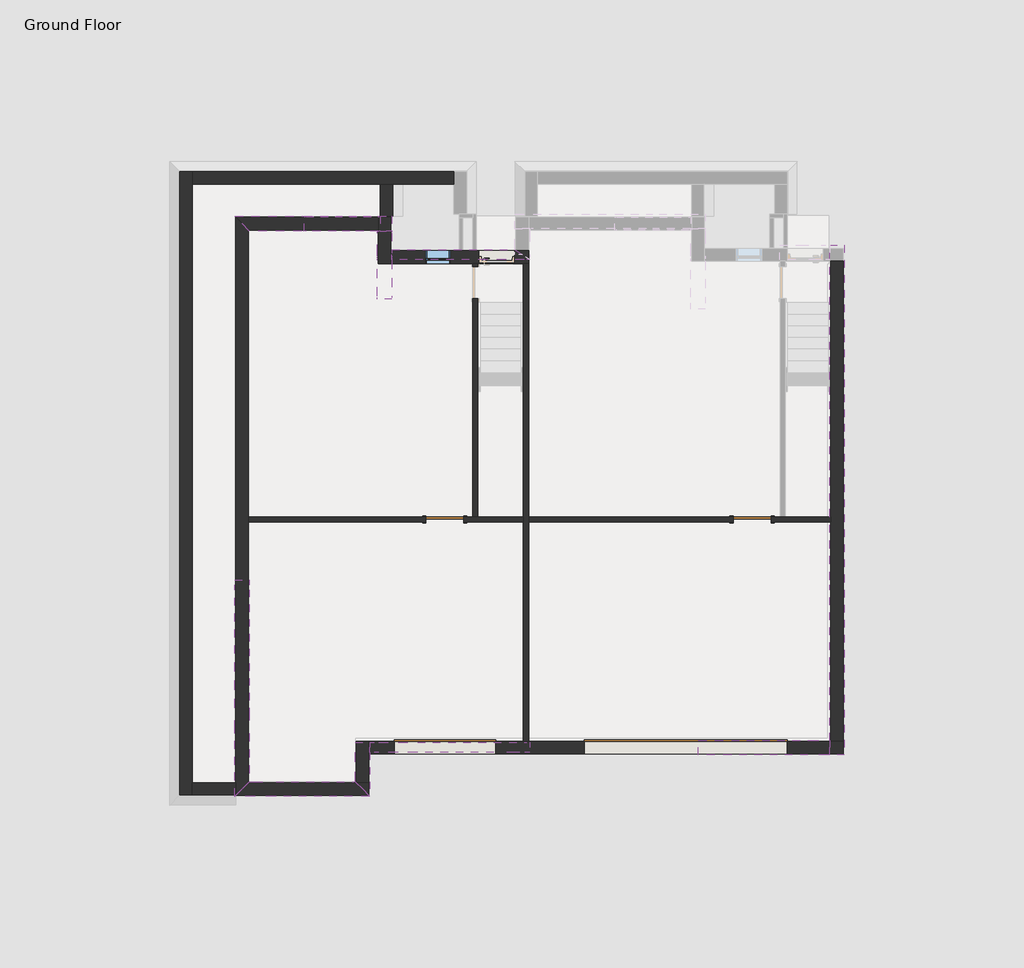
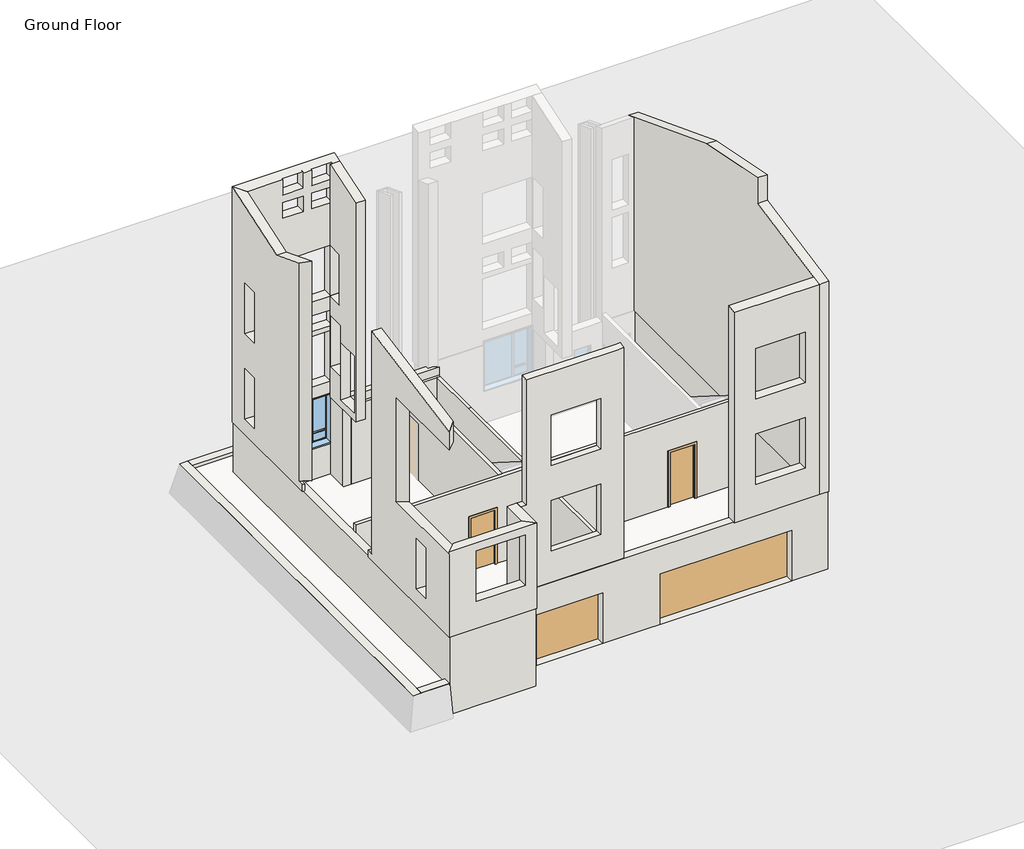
# One storey, part 1 of 2: 25 walls, 4 doors, 2 windows.
"""IFC4 building model written with IfcOpenShell, lengths in millimetres."""

import ifcopenshell
import ifcopenshell.guid

model = None  # the IFC model being written
_history = None  # IfcOwnerHistory: only IFC2X3 demands one
_inside = {}  # id of a spatial element -> (the spatial element, [elements in it])
_under = {}  # id of a project, library or spatial element -> (it, [spatial elements below it])
_declared = {}  # id of a project -> (the project, [libraries it declares])
_typed = {}  # id of a type object -> (the type object, [elements of that type])
_made_of = {}  # id of a material, layer set ... -> (it, [elements and type objects made of it])


def new_model(schema):
    """Start an empty IFC model of exactly this schema.

    Asked for "IFC4X3", IfcOpenShell would pick the latest addendum, in which some entities
    have other attributes; the version numbers below select the first issue.
    IFC2X3 requires an IfcOwnerHistory on every rooted entity: one is made here for all.
    """
    global model, _history
    if schema == "IFC4X3":
        model = ifcopenshell.file(schema_version=(4, 3, 0, 0))
    else:
        model = ifcopenshell.file(schema=schema)
    _inside.clear()
    _under.clear()
    _declared.clear()
    _typed.clear()
    _made_of.clear()
    _history = None
    if model.schema == "IFC2X3":
        org = make("IfcOrganization", Name="unknown")
        user = make(
            "IfcPersonAndOrganization",
            ThePerson=make("IfcPerson", FamilyName="unknown"),
            TheOrganization=org,
        )
        app = make(
            "IfcApplication",
            ApplicationDeveloper=org,
            Version="unknown",
            ApplicationFullName="unknown",
            ApplicationIdentifier="unknown",
        )
        _history = make(
            "IfcOwnerHistory",
            OwningUser=user,
            OwningApplication=app,
            ChangeAction="ADDED",
            CreationDate=0,
        )
    return model


def make(cls, **values):
    """One entity of the class cls with the attributes given. An attribute that is None is left unset."""
    return model.create_entity(
        cls, **{name: value for name, value in values.items() if value is not None}
    )


def rooted(cls, **values):
    """An entity with a GlobalId (a new one), such as an element, a storey or a relation."""
    return make(cls, GlobalId=ifcopenshell.guid.new(), OwnerHistory=_history, **values)


def si_unit(unit_type, name, prefix=None):
    """IfcSIUnit, for example si_unit("LENGTHUNIT", "METRE", prefix="MILLI")."""
    return make("IfcSIUnit", UnitType=unit_type, Prefix=prefix, Name=name)


def assignment(units):
    """IfcUnitAssignment: the units of a project."""
    return None if units is None else make("IfcUnitAssignment", Units=units)


def point(xyz):
    """IfcCartesianPoint."""
    return None if xyz is None else make("IfcCartesianPoint", Coordinates=xyz)


def direction(xyz):
    """IfcDirection."""
    return None if xyz is None else make("IfcDirection", DirectionRatios=xyz)


def frame(location, z_axis=None, x_axis=None):
    """IfcAxis2Placement3D, a coordinate frame: its origin and axes. An axis left out is left unset."""
    return make(
        "IfcAxis2Placement3D",
        Location=point(location),
        Axis=direction(z_axis),
        RefDirection=direction(x_axis),
    )


def origin():
    """The frame at (0, 0, 0) with its axes left unset."""
    return frame((0.0, 0.0, 0.0))


def origin_with_axes():
    """The frame at (0, 0, 0) with the z axis (0, 0, 1) and the x axis (1, 0, 0) written out."""
    return frame((0.0, 0.0, 0.0), z_axis=(0.0, 0.0, 1.0), x_axis=(1.0, 0.0, 0.0))


def place(relative_to, where):
    """IfcLocalPlacement: puts the frame where relative to a parent placement (None: the world)."""
    return make(
        "IfcLocalPlacement", PlacementRelTo=relative_to, RelativePlacement=where
    )


def context(
    kind, dimensions, precision=None, world=None, true_north=None, identifier=None
):
    """IfcGeometricRepresentationContext, for example the 3D "Model" context."""
    return make(
        "IfcGeometricRepresentationContext",
        ContextIdentifier=identifier,
        ContextType=kind,
        CoordinateSpaceDimension=dimensions,
        Precision=precision,
        WorldCoordinateSystem=world,
        TrueNorth=true_north,
    )


def project(units=None, contexts=None):
    """IfcProject with its units and contexts."""
    return rooted(
        "IfcProject",
        Name="project",
        RepresentationContexts=contexts,
        UnitsInContext=assignment(units),
    )


def spatial(cls, under=None, at=None, **own):
    """A site, building, storey or space (cls), placed at a placement, below another one or the project."""
    s = rooted(cls, ObjectPlacement=at, **own)
    if under is not None:
        _under.setdefault(under.id(), (under, []))[1].append(s)
    return s


def polyline(points):
    """IfcPolyline through the points."""
    return make("IfcPolyline", Points=[point(p) for p in points])


def outline(outer, holes=None, kind="AREA"):
    """IfcArbitraryClosedProfileDef: a profile drawn as a closed curve; with holes, ...WithVoids."""
    if holes is None:
        return make("IfcArbitraryClosedProfileDef", ProfileType=kind, OuterCurve=outer)
    return make(
        "IfcArbitraryProfileDefWithVoids",
        ProfileType=kind,
        OuterCurve=outer,
        InnerCurves=holes,
    )


def extrude(swept, where, along, depth):
    """IfcExtrudedAreaSolid: the profile swept, set in the frame where, extruded along a direction by depth."""
    return make(
        "IfcExtrudedAreaSolid",
        SweptArea=swept,
        Position=where,
        ExtrudedDirection=direction(along),
        Depth=depth,
    )


def faces_of(points, faces, orient=None, outer=None):
    """IfcFace entities. A face is a list of loops; a loop is a list of indices into points, from 0.

    orient and outer hold one flag for each loop. By default every Orientation is true, the
    first loop of a face is its IfcFaceOuterBound and the others are IfcFaceBound.
    """
    made = []
    for i, loops in enumerate(faces):
        bounds = []
        for j, loop in enumerate(loops):
            is_outer = j == 0 if outer is None else outer[i][j]
            bounds.append(
                make(
                    "IfcFaceOuterBound" if is_outer else "IfcFaceBound",
                    Bound=make("IfcPolyLoop", Polygon=[points[k] for k in loop]),
                    Orientation=True if orient is None else orient[i][j],
                )
            )
        made.append(make("IfcFace", Bounds=bounds))
    return made


def faceted_brep(points, faces, orient=None, outer=None, voids=None):
    """IfcFacetedBrep: a solid bounded by flat faces; with voids (closed shells), ...WithVoids."""
    shared = [point(p) for p in points]
    hull = make("IfcClosedShell", CfsFaces=faces_of(shared, faces, orient, outer))
    if voids is None:
        return make("IfcFacetedBrep", Outer=hull)
    return make(
        "IfcFacetedBrepWithVoids",
        Outer=hull,
        Voids=[
            make(cls, CfsFaces=faces_of(shared, fs, o, b)) for cls, fs, o, b in voids
        ],
    )


def shape(context_of_items, identifier, shape_type, items):
    """IfcShapeRepresentation: the items that make up one representation, for example the "Body"."""
    return make(
        "IfcShapeRepresentation",
        ContextOfItems=context_of_items,
        RepresentationIdentifier=identifier,
        RepresentationType=shape_type,
        Items=items,
    )


def source(mapping_origin, context_of_items, identifier, shape_type, items):
    """IfcRepresentationMap: a shape defined once, which mapped items show again and again."""
    return make(
        "IfcRepresentationMap",
        MappingOrigin=mapping_origin,
        MappedRepresentation=shape(context_of_items, identifier, shape_type, items),
    )


def transform(
    local_origin,
    x_axis=None,
    y_axis=None,
    z_axis=None,
    scale=None,
    scale2=None,
    scale3=None,
    uniform=True,
):
    """IfcCartesianTransformationOperator3D, or its non-uniform kind. x_axis, y_axis, z_axis: its Axis1, 2, 3."""
    if uniform:
        return make(
            "IfcCartesianTransformationOperator3D",
            Axis1=direction(x_axis),
            Axis2=direction(y_axis),
            LocalOrigin=point(local_origin),
            Scale=scale,
            Axis3=direction(z_axis),
        )
    return make(
        "IfcCartesianTransformationOperator3DnonUniform",
        Axis1=direction(x_axis),
        Axis2=direction(y_axis),
        LocalOrigin=point(local_origin),
        Scale=scale,
        Axis3=direction(z_axis),
        Scale2=scale2,
        Scale3=scale3,
    )


def mapped(mapping_source, mapping_target):
    """IfcMappedItem: shows the shape of a source again, moved by a transform."""
    return make(
        "IfcMappedItem", MappingSource=mapping_source, MappingTarget=mapping_target
    )


def made_of(thing, what):
    """Note that an element or type object is made of a material, layer set ...; save() writes the relation."""
    if what is not None:
        _made_of.setdefault(what.id(), (what, []))[1].append(thing)
    return thing


def element(
    cls,
    number,
    at=None,
    inside=None,
    cuts=None,
    type_object=None,
    material=None,
    context=None,
    identifier="Body",
    shape_type=None,
    held_by="IfcProductDefinitionShape",
    body=None,
    shapes=None,
    **own,
):
    """One element of the class cls, such as IfcWall. Its Tag is "e" and its number.

    at: its placement. inside: the storey or other place that contains it. cuts: it is an
    opening in that element (IfcRelVoidsElement). A single representation is given by context,
    identifier, shape_type and body (its items); several are given by shapes. held_by: the class
    of the entity that holds the representations. save() writes the other relations.
    """
    e = rooted(cls, Tag="e%d" % number, ObjectPlacement=at, **own)
    if body is not None:
        shapes = [shape(context, identifier, shape_type, body)]
    if shapes is not None:
        e.Representation = make(held_by, Representations=shapes)
    if inside is not None:
        _inside.setdefault(inside.id(), (inside, []))[1].append(e)
    if cuts is not None:
        rooted(
            "IfcRelVoidsElement", RelatingBuildingElement=cuts, RelatedOpeningElement=e
        )
    if type_object is not None:
        _typed.setdefault(type_object.id(), (type_object, []))[1].append(e)
    return made_of(e, material)


def aggregate(whole, parts):
    """IfcRelAggregates: a whole, such as a stair, and the parts it consists of."""
    return rooted("IfcRelAggregates", RelatingObject=whole, RelatedObjects=parts)


def save(model, path):
    """Write the relations noted so far, then the file.

    IfcRelAggregates (storeys below a building ...), IfcRelContainedInSpatialStructure (elements
    in a storey), IfcRelDefinesByType, IfcRelAssociatesMaterial and IfcRelDeclares: one each for
    every whole, place, type object, material and project.
    """
    for whole, parts in _under.values():
        aggregate(whole, parts)
    for where, things in _inside.values():
        rooted(
            "IfcRelContainedInSpatialStructure",
            RelatedElements=things,
            RelatingStructure=where,
        )
    for kind, things in _typed.values():
        rooted("IfcRelDefinesByType", RelatedObjects=things, RelatingType=kind)
    for what, things in _made_of.values():
        rooted("IfcRelAssociatesMaterial", RelatedObjects=things, RelatingMaterial=what)
    for by, libraries in _declared.values():
        rooted("IfcRelDeclares", RelatingContext=by, RelatedDefinitions=libraries)
    model.write(path)


def door_03d53f81(model_context):
    return source(origin(), model_context, "Body", "SweptSolid", [
        extrude(outline(polyline([(2438.4, 152.4), (-2438.4, 152.4), (-2438.4, 190.5), (2438.4, 190.5), (2438.4, 152.4)])), origin_with_axes(), (0.0, 0.0, 1.0), 1981.2),
    ])


def door_8bec8b28(model_context):
    return source(origin(), model_context, "Body", "SweptSolid", [
        extrude(outline(polyline([(1219.2, -152.4), (1219.2, -190.5), (-1219.2, -190.5), (-1219.2, -152.4), (1219.2, -152.4)])), origin_with_axes(), (0.0, 0.0, 1.0), 1981.2),
    ])


def door_88503111(model_context):
    return source(origin(), model_context, "Body", "SweptSolid", [
        extrude(outline(polyline([(2209.8, -533.4), (0.0, -533.4), (0.0, -457.2), (2133.6, -457.2), (2133.6, 457.2), (0.0, 457.2), (0.0, 533.4), (2209.8, 533.4), (2209.8, -533.4)])), frame((0.0, 61.9125, 0.0), z_axis=(0.0, 1.0, 0.0), x_axis=(0.0, 0.0, 1.0)), (0.0, 0.0, 1.0), 25.4),
        extrude(outline(polyline([(2209.8, 533.4), (2209.8, -533.4), (0.0, -533.4), (0.0, -457.2), (2133.6, -457.2), (2133.6, 457.2), (0.0, 457.2), (0.0, 533.4), (2209.8, 533.4)])), frame((0.0, -87.3125, 0.0), z_axis=(0.0, 1.0, 0.0), x_axis=(0.0, 0.0, 1.0)), (0.0, 0.0, 1.0), 25.4),
        extrude(outline(polyline([(457.2, 11.1125), (-457.2, 11.1125), (-457.2, 61.9125), (457.2, 61.9125), (457.2, 11.1125)])), origin_with_axes(), (0.0, 0.0, 1.0), 2133.6),
    ])


def window_ca6665d5(model_context):
    return source(origin(), model_context, "Body", "SweptSolid", [
        extrude(outline(polyline([(203.2, 47.625), (-279.4, 47.625), (-279.4, 60.325), (203.2, 60.325), (203.2, 47.625)])), frame((0.0, 0.0, 368.3), z_axis=(0.0, 0.0, 1.0), x_axis=(1.0, 0.0, 0.0)), (0.0, 0.0, 1.0), 1854.2),
        extrude(outline(polyline([(2266.95, -323.85), (323.85, -323.85), (323.85, 247.65), (2266.95, 247.65), (2266.95, -323.85)]), holes=[polyline([(2222.5, -279.4), (2222.5, 203.2), (368.3, 203.2), (368.3, -279.4), (2222.5, -279.4)])]), frame((0.0, 31.75, 0.0), z_axis=(0.0, 1.0, 0.0), x_axis=(0.0, 0.0, 1.0)), (0.0, 0.0, 1.0), 44.45),
        extrude(outline(polyline([(2286.0, -342.9), (304.8, -342.9), (304.8, 266.7), (2286.0, 266.7), (2286.0, -342.9)]), holes=[polyline([(2254.25, -311.15), (2254.25, 234.95), (336.55, 234.95), (336.55, -311.15), (2254.25, -311.15)])]), frame((0.0, -152.4, 0.0), z_axis=(0.0, 1.0, 0.0), x_axis=(0.0, 0.0, 1.0)), (0.0, 0.0, 1.0), 184.15),
        extrude(outline(polyline([(2286.0, 266.7), (2286.0, -342.9), (304.8, -342.9), (304.8, 266.7), (2286.0, 266.7)]), holes=[polyline([(2266.95, 247.65), (323.85, 247.65), (323.85, -323.85), (2266.95, -323.85), (2266.95, 247.65)])]), frame((0.0, 31.75, 0.0), z_axis=(0.0, 1.0, 0.0), x_axis=(0.0, 0.0, 1.0)), (0.0, 0.0, 1.0), 120.65),
    ])


def window_7b40078c(model_context):
    return source(origin(), model_context, "Body", "SolidModel", [
        faceted_brep([(-863.6, 134.9375, 2844.8), (-863.6, 176.2125, 2844.8), (863.6, 176.2125, 2844.8), (863.6, 134.9375, 2844.8), (340.3203125, 134.9375, 2844.8), (330.2, 134.9375, 2844.8), (330.2, 173.0375, 2844.8), (279.4, 173.0375, 2844.8), (279.4, 134.9375, 2844.8), (-878.8796875, 84.1375, 2860.0796875), (-878.8796875, 134.9375, 2860.0796875), (878.8796875, 134.9375, 2860.0796875), (878.8796875, 84.1375, 2860.0796875), (-863.6, -176.2125, 2844.8), (-863.6, 84.1375, 2844.8), (279.4, 84.1375, 2844.8), (340.3203125, 84.1375, 2844.8), (863.6, 84.1375, 2844.8), (863.6, -176.2125, 2844.8), (-914.4, 176.2125, 2895.6), (-914.4, -176.2125, 2895.6), (914.4, -176.2125, 2895.6), (914.4, 176.2125, 2895.6), (863.6, 176.2125, 965.2), (863.6, 134.9375, 965.2), (863.6, 134.9375, 1292.8798438), (863.6, 173.0375, 1292.8798438), (863.6, 173.0375, 1328.4001563), (863.6, 134.9375, 1328.4001563), (878.8796875, 134.9375, 1328.4001563), (878.8796875, 84.1375, 1328.4001563), (878.8796875, 134.9375, 949.9203125), (878.8796875, 84.1375, 949.9203125), (878.8796875, 84.1375, 1292.8798438), (878.8796875, 134.9375, 1292.8798438), (863.6, 84.1375, 1328.4001563), (863.6, 84.1375, 1292.8798438), (863.6, 84.1375, 965.2), (863.6, -176.2125, 965.2), (914.4, -176.2125, 914.4), (914.4, 176.2125, 914.4), (-863.6, 176.2125, 965.2), (-863.6, 134.9375, 965.2), (279.4, 134.9375, 965.2), (279.4, 173.0375, 965.2), (330.2, 173.0375, 965.2), (330.2, 134.9375, 965.2), (340.3203125, 134.9375, 965.2), (340.3203125, 134.9375, 949.9203125), (340.3203125, 84.1375, 949.9203125), (-878.8796875, 134.9375, 949.9203125), (-878.8796875, 84.1375, 949.9203125), (279.4, 84.1375, 949.9203125), (279.4, 134.9375, 949.9203125), (340.3203125, 84.1375, 965.2), (279.4, 84.1375, 965.2), (-863.6, 84.1375, 965.2), (-863.6, -176.2125, 965.2), (-914.4, -176.2125, 914.4), (-914.4, 176.2125, 914.4), (330.2, 134.9375, 2844.8), (330.2, 173.0375, 1328.4001563), (330.2, 173.0375, 1292.8798438), (340.3203125, 134.9375, 1292.8798438), (340.3203125, 84.1375, 1292.8798438), (340.3203125, 84.1375, 1328.4001563), (340.3203125, 134.9375, 1328.4001563), (330.2, 134.9375, 1328.4001563), (330.2, 134.9375, 1292.8798438)], [[[0, 1, 2, 3, 4, 5, 6, 7, 8]], [[9, 10, 11, 12]], [[13, 14, 15, 16, 17, 18]], [[19, 20, 21, 22]], [[3, 2, 23, 24, 25, 26, 27, 28]], [[12, 11, 29, 30]], [[31, 32, 33, 34]], [[18, 17, 35, 36, 37, 38]], [[22, 21, 39, 40]], [[24, 23, 41, 42, 43, 44, 45, 46, 47]], [[32, 31, 48, 49]], [[50, 51, 52, 53]], [[38, 37, 54, 55, 56, 57]], [[40, 39, 58, 59]], [[1, 0, 42, 41]], [[48, 31, 34, 25, 24, 47]], [[11, 10, 50, 53, 43, 42, 0, 8, 60, 4, 3, 28, 29]], [[10, 9, 51, 50]], [[9, 12, 30, 35, 17, 16, 15, 14, 56, 55, 52, 51]], [[54, 37, 36, 33, 32, 49]], [[14, 13, 57, 56]], [[21, 20, 58, 39], [13, 18, 38, 57]], [[20, 19, 59, 58]], [[19, 22, 40, 59], [2, 1, 41, 23]], [[44, 7, 6, 61, 27, 26, 62, 45]], [[55, 15, 8, 7, 44, 43, 53, 52]], [[49, 48, 47, 63, 64, 54]], [[4, 16, 65, 66]], [[6, 5, 67, 61]], [[46, 45, 62, 68]], [[36, 64, 63, 68, 62, 26, 25, 34, 33]], [[65, 35, 30, 29, 28, 27, 61, 67, 66]], [[16, 4, 60, 8, 15]], [[15, 55, 54, 64, 36, 35, 65, 16]], [[5, 4, 66, 67]], [[47, 46, 68, 63]]]),
        extrude(outline(polyline([(889.0, 147.6375), (889.0, 141.2875), (330.2, 141.2875), (330.2, 147.6375), (889.0, 147.6375)])), frame((0.0, 0.0, 1328.4001563), z_axis=(0.0, 0.0, 1.0), x_axis=(1.0, 0.0, 0.0)), (0.0, 0.0, 1.0), 1541.7998438),
        extrude(outline(polyline([(889.0, 160.3375), (889.0, 153.9875), (330.2, 153.9875), (330.2, 160.3375), (889.0, 160.3375)])), frame((0.0, 0.0, 1328.4001563), z_axis=(0.0, 0.0, 1.0), x_axis=(1.0, 0.0, 0.0)), (0.0, 0.0, 1.0), 1541.7998438),
        extrude(outline(polyline([(279.4, 160.3375), (279.4, 153.9875), (-863.6, 153.9875), (-863.6, 160.3375), (279.4, 160.3375)])), frame((0.0, 0.0, 949.9203125), z_axis=(0.0, 0.0, 1.0), x_axis=(1.0, 0.0, 0.0)), (0.0, 0.0, 1.0), 1920.2796875),
        extrude(outline(polyline([(279.4, 147.6375), (279.4, 141.2875), (-863.6, 141.2875), (-863.6, 147.6375), (279.4, 147.6375)])), frame((0.0, 0.0, 949.9203125), z_axis=(0.0, 0.0, 1.0), x_axis=(1.0, 0.0, 0.0)), (0.0, 0.0, 1.0), 1920.2796875),
        extrude(outline(polyline([(889.0, 160.3375), (330.2, 160.3375), (330.2, 173.0375), (889.0, 173.0375), (889.0, 160.3375)])), frame((0.0, 0.0, 949.9203125), z_axis=(0.0, 0.0, 1.0), x_axis=(1.0, 0.0, 0.0)), (0.0, 0.0, 1.0), 342.9595312),
        extrude(outline(polyline([(889.0, 147.6375), (889.0, 141.2875), (330.2, 141.2875), (330.2, 147.6375), (889.0, 147.6375)])), frame((0.0, 0.0, 949.9203125), z_axis=(0.0, 0.0, 1.0), x_axis=(1.0, 0.0, 0.0)), (0.0, 0.0, 1.0), 342.9595312),
    ])


model = new_model("IFC4")

# Units and contexts
model_context = context("Model", 3, world=origin())
ifc_project = project(units=[si_unit("LENGTHUNIT", "METRE", prefix="MILLI")], contexts=[model_context])

# Site, building, storey
site = spatial("IfcSite", under=ifc_project)
building = spatial("IfcBuilding", under=site)
storey = spatial("IfcBuildingStorey", under=building, Name="Ground Floor", Elevation=-3352.8)

# Doors
placement = place(None, origin())
door_shape = door_03d53f81(model_context)
element("IfcDoor", 1, ObjectType="Door-Overhead-Sectional : 16' x 6'-6\"", at=placement, inside=storey, context=model_context, shape_type="MappedRepresentation", body=[
    mapped(door_shape, transform((2182.7178219, -6034.5046456, -3352.8), x_axis=(1.0, 0.0, 0.0), y_axis=(0.0, 1.0, 0.0), z_axis=(0.0, 0.0, 1.0))),
])
door_2_shape = door_8bec8b28(model_context)
element("IfcDoor", 2, ObjectType="Door-Overhead-Sectional : 8' x 6'-6\"", at=placement, inside=storey, context=model_context, shape_type="MappedRepresentation", body=[
    mapped(door_2_shape, transform((-3608.4821781, -6034.5046456, -3352.8), x_axis=(-1.0, 0.0, 0.0), y_axis=(0.0, -1.0, 0.0), z_axis=(0.0, 0.0, 1.0))),
])
door_3_shape = door_88503111(model_context)
element("IfcDoor", 3, ObjectType="Single-Flush : 36\" x 84\"", at=placement, inside=storey, context=model_context, shape_type="MappedRepresentation", body=[
    mapped(door_3_shape, transform((-3614.4696781, -546.2436915, -3352.8), x_axis=(1.0, 0.0, 0.0), y_axis=(0.0, 1.0, 0.0), z_axis=(0.0, 0.0, 1.0))),
])
element("IfcDoor", 4, ObjectType="Single-Flush : 36\" x 84\"", at=placement, inside=storey, context=model_context, shape_type="MappedRepresentation", body=[
    mapped(door_3_shape, transform((3776.1161072, -551.0718139, -3352.8), x_axis=(1.0, 0.0, 0.0), y_axis=(0.0, 1.0, 0.0), z_axis=(0.0, 0.0, 1.0))),
])

# Walls
element("IfcWall", 5, ObjectType="Exterior - Brick", at=placement, inside=storey, context=model_context, shape_type="Brep", body=[
    faceted_brep([(-5413.4696781, -7206.5436915, -304.8), (-5413.4696781, -6155.1546456, -304.8), (-5413.4696781, -5913.8546456, -304.8), (-5413.4696781, -5913.8546456, 3048.0), (-5413.4696781, -6155.1546456, 3048.0), (-5413.4696781, -7206.5436915, 3048.0), (-5765.8946781, -6854.1186915, -304.8), (-5765.8946781, -6854.1186915, 3048.0), (-5765.8946781, -5913.8546456, 3048.0), (-5765.8946781, -5913.8546456, -304.8)], [[[0, 1, 2, 3, 4, 5]], [[6, 7, 8, 9]], [[2, 1, 0, 6, 9]], [[3, 2, 9, 8]], [[0, 5, 7, 6]], [[5, 4, 3, 8, 7]]]),
])
element("IfcWall", 6, ObjectType="Exterior - Brick on Mtl. Stud", at=placement, inside=storey, context=model_context, shape_type="Brep", body=[
    faceted_brep([(-8312.2446781, 6389.4938085, 8822.2842549), (-8312.2446781, 6389.4938085, 0.0), (-8312.2446781, 6389.4938085, -304.8), (-6989.0821781, 6389.4938085, -304.8), (-6989.0821781, 6389.4938085, -152.4), (-5160.2821781, 6389.4938085, -152.4), (-5160.2821781, 6389.4938085, -304.8), (-4883.0196781, 6389.4938085, -304.8), (-4883.0196781, 6389.4938085, 3657.6), (-5235.4446781, 6389.4938085, 3657.6), (-7048.4446781, 6389.4938085, 3657.6), (-7048.4446781, 6389.4938085, 5638.8), (-5235.4446781, 6389.4938085, 5638.8), (-4883.0196781, 6389.4938085, 5638.8), (-4883.0196781, 6389.4938085, 8822.2842549), (-5160.2821781, 6389.4938085, 8822.2842549), (-5160.2821781, 6389.4938085, 8229.6), (-5922.2821781, 6389.4938085, 8229.6), (-5922.2821781, 6389.4938085, 8822.2842549), (-6227.0821781, 6389.4938085, 8822.2842549), (-6227.0821781, 6389.4938085, 8229.6), (-6989.0821781, 6389.4938085, 8229.6), (-6989.0821781, 6389.4938085, 8822.2842549), (-5160.2821781, 6389.4938085, 3098.8), (-5160.2821781, 6389.4938085, 2489.2), (-5922.2821781, 6389.4938085, 2489.2), (-5922.2821781, 6389.4938085, 3098.8), (-5160.2821781, 6389.4938085, 7924.8), (-5160.2821781, 6389.4938085, 7315.2), (-5922.2821781, 6389.4938085, 7315.2), (-5922.2821781, 6389.4938085, 7924.8), (-6989.0821781, 6389.4938085, 2489.2), (-6989.0821781, 6389.4938085, 3098.8), (-6227.0821781, 6389.4938085, 3098.8), (-6227.0821781, 6389.4938085, 2489.2), (-6227.0821781, 6389.4938085, 7924.8), (-6227.0821781, 6389.4938085, 7315.2), (-6989.0821781, 6389.4938085, 7315.2), (-6989.0821781, 6389.4938085, 7924.8), (-5219.6446781, 6389.4938085, 2286.0), (-5219.6446781, 6389.4938085, 304.8), (-7048.4446781, 6389.4938085, 304.8), (-7048.4446781, 6389.4938085, 2286.0), (-8664.6696781, 6741.9188085, 8938.1680475), (-4883.0196781, 6741.9188085, 8938.1680475), (-4883.0196781, 6741.9188085, -304.8), (-5160.2821781, 6741.9188085, -304.8), (-5160.2821781, 6741.9188085, -152.4), (-6989.0821781, 6741.9188085, -152.4), (-6989.0821781, 6741.9188085, -304.8), (-8664.6696781, 6741.9188085, -304.8), (-5160.2821781, 6741.9188085, 8229.6), (-5160.2821781, 6741.9188085, 8839.2), (-5922.2821781, 6741.9188085, 8839.2), (-5922.2821781, 6741.9188085, 8229.6), (-6227.0821781, 6741.9188085, 8229.6), (-6227.0821781, 6741.9188085, 8839.2), (-6989.0821781, 6741.9188085, 8839.2), (-6989.0821781, 6741.9188085, 8229.6), (-5219.6446781, 6741.9188085, 3657.6), (-5219.6446781, 6741.9188085, 5638.8), (-7048.4446781, 6741.9188085, 5638.8), (-7048.4446781, 6741.9188085, 3657.6), (-5160.2821781, 6741.9188085, 2489.2), (-5160.2821781, 6741.9188085, 3098.8), (-5922.2821781, 6741.9188085, 3098.8), (-5922.2821781, 6741.9188085, 2489.2), (-5160.2821781, 6741.9188085, 7315.2), (-5160.2821781, 6741.9188085, 7924.8), (-5922.2821781, 6741.9188085, 7924.8), (-5922.2821781, 6741.9188085, 7315.2), (-6989.0821781, 6741.9188085, 3098.8), (-6989.0821781, 6741.9188085, 2489.2), (-6227.0821781, 6741.9188085, 2489.2), (-6227.0821781, 6741.9188085, 3098.8), (-6227.0821781, 6741.9188085, 7315.2), (-6227.0821781, 6741.9188085, 7924.8), (-6989.0821781, 6741.9188085, 7924.8), (-6989.0821781, 6741.9188085, 7315.2), (-5219.6446781, 6741.9188085, 304.8), (-5219.6446781, 6741.9188085, 2286.0), (-7048.4446781, 6741.9188085, 2286.0), (-7048.4446781, 6741.9188085, 304.8), (-6989.0821781, 6440.9378573, 8839.2), (-6227.0821781, 6440.9378573, 8839.2), (-5922.2821781, 6440.9378573, 8839.2), (-5160.2821781, 6440.9378573, 8839.2), (-4883.0196781, 6394.6313085, 5638.8), (-4883.0196781, 6394.6313085, 3657.6), (-5219.6446781, 6394.6313085, 3657.6), (-5219.6446781, 6394.6313085, 5638.8)], [[[0, 1, 2, 3, 4, 5, 6, 7, 8, 9, 10, 11, 12, 13, 14, 15, 16, 17, 18, 19, 20, 21, 22], [23, 24, 25, 26], [27, 28, 29, 30], [31, 32, 33, 34], [35, 36, 37, 38], [39, 40, 41, 42]], [[43, 44, 45, 46, 47, 48, 49, 50], [51, 52, 53, 54], [55, 56, 57, 58], [59, 60, 61, 62], [63, 64, 65, 66], [67, 68, 69, 70], [71, 72, 73, 74], [75, 76, 77, 78], [79, 80, 81, 82]], [[45, 7, 6, 46]], [[2, 50, 49, 3]], [[44, 43, 0, 22, 83, 84, 19, 18, 85, 86, 15, 14]], [[7, 45, 44, 14, 13, 87, 88, 8]], [[2, 1, 0, 43, 50]], [[5, 47, 46, 6]], [[48, 4, 3, 49]], [[47, 5, 4, 48]], [[86, 52, 51, 16, 15]], [[16, 51, 54, 17]], [[17, 54, 53, 85, 18]], [[52, 86, 85, 53]], [[84, 56, 55, 20, 19]], [[20, 55, 58, 21]], [[21, 58, 57, 83, 22]], [[56, 84, 83, 57]], [[60, 59, 89, 90]], [[62, 10, 9, 8, 88, 89, 59]], [[10, 62, 61, 11]], [[11, 61, 60, 90, 87, 13, 12]], [[87, 90, 89, 88]], [[23, 64, 63, 24]], [[24, 63, 66, 25]], [[25, 66, 65, 26]], [[64, 23, 26, 65]], [[27, 68, 67, 28]], [[28, 67, 70, 29]], [[29, 70, 69, 30]], [[68, 27, 30, 69]], [[72, 71, 32, 31]], [[73, 72, 31, 34]], [[74, 73, 34, 33]], [[71, 74, 33, 32]], [[36, 35, 76, 75]], [[37, 36, 75, 78]], [[38, 37, 78, 77]], [[35, 38, 77, 76]], [[39, 80, 79, 40]], [[40, 79, 82, 41]], [[41, 82, 81, 42]], [[80, 39, 42, 81]]]),
])
element("IfcWall", 7, ObjectType="Exterior - Brick on Mtl. Stud", at=placement, inside=storey, context=model_context, shape_type="Brep", body=[
    faceted_brep([(-8312.2446781, -2238.8436915, 8711.0519224), (-8312.2446781, -6854.1186915, 7827.4619555), (-8312.2446781, -6854.1186915, 7052.8), (-8312.2446781, -4012.0811915, 7052.8), (-8312.2446781, -4012.0811915, 2952.8), (-8312.2446781, -6854.1186915, 2952.8), (-8312.2446781, -6854.1186915, 0.0), (-8312.2446781, -6854.1186915, -304.8), (-8312.2446781, -1997.5436915, -304.8), (-8312.2446781, -1997.5436915, -28.575), (-8312.2446781, -2238.8436915, -28.575), (-8312.2446781, -2238.8436915, 0.0), (-8312.2446781, -5688.3425794, 304.8), (-8312.2446781, -5688.3425794, 2286.0), (-8312.2446781, -5078.7425794, 2286.0), (-8312.2446781, -5078.7425794, 304.8), (-8664.6696781, -7206.5436915, 7759.9905277), (-8664.6696781, -2238.8436915, 8711.0519224), (-8664.6696781, -2238.8436915, -28.575), (-8664.6696781, -1997.5436915, -28.575), (-8664.6696781, -1997.5436915, -304.8), (-8664.6696781, -7206.5436915, -304.8), (-8664.6696781, -7206.5436915, 2952.8), (-8664.6696781, -3770.7811915, 2952.8), (-8664.6696781, -3770.7811915, 7052.8), (-8664.6696781, -7206.5436915, 7052.8), (-8664.6696781, -5688.3425794, 2286.0), (-8664.6696781, -5688.3425794, 304.8), (-8664.6696781, -5078.7425794, 304.8), (-8664.6696781, -5078.7425794, 2286.0)], [[[0, 1, 2, 3, 4, 5, 6, 7, 8, 9, 10, 11], [12, 13, 14, 15]], [[16, 17, 18, 19, 20, 21, 22, 23, 24, 25], [26, 27, 28, 29]], [[7, 21, 20, 8]], [[17, 16, 1, 0]], [[23, 22, 5, 4]], [[25, 24, 3, 2]], [[18, 10, 9, 19]], [[18, 17, 0, 11, 10]], [[24, 23, 4, 3]], [[22, 21, 7, 6, 5]], [[16, 25, 2, 1]], [[27, 26, 13, 12]], [[28, 27, 12, 15]], [[29, 28, 15, 14]], [[26, 29, 14, 13]], [[9, 8, 20, 19]]]),
    faceted_brep([(-8312.2446781, 6389.4938085, 8821.6527681), (-8312.2446781, 3870.984475, 7984.4952914), (-8312.2446781, 2230.7574206, 8615.9369278), (-8312.2446781, 2230.7574206, 0.0), (-8312.2446781, 6389.4938085, 0.0), (-8312.2446781, 5921.5563085, 2286.0), (-8312.2446781, 5921.5563085, 304.8), (-8312.2446781, 5311.9563085, 304.8), (-8312.2446781, 5311.9563085, 2286.0), (-8312.2446781, 5921.5563085, 5638.8), (-8312.2446781, 5921.5563085, 3657.6), (-8312.2446781, 5311.9563085, 3657.6), (-8312.2446781, 5311.9563085, 5638.8), (-8664.6696781, 2472.0574206, -28.575), (-8664.6696781, 2472.0574206, 8523.0431626), (-8664.6696781, 3870.984475, 7984.4952914), (-8664.6696781, 6741.9188085, 8938.7995342), (-8664.6696781, 6741.9188085, -304.8), (-8664.6696781, 2230.7574206, -304.8), (-8664.6696781, 2230.7574206, -28.575), (-8664.6696781, 5921.5563085, 304.8), (-8664.6696781, 5921.5563085, 2286.0), (-8664.6696781, 5311.9563085, 2286.0), (-8664.6696781, 5311.9563085, 304.8), (-8664.6696781, 5921.5563085, 3657.6), (-8664.6696781, 5921.5563085, 5638.8), (-8664.6696781, 5311.9563085, 5638.8), (-8664.6696781, 5311.9563085, 3657.6), (-8312.2446781, 6389.4938085, -304.8), (-8566.5821781, 6389.4938085, -304.8), (-8566.5821781, 2230.7574206, -304.8), (-8566.5821781, 2230.7574206, -28.575), (-8566.5821781, 2404.8984116, -28.575), (-8566.5821781, 2404.8984116, 0.0), (-8566.5821781, 6389.4938085, 0.0)], [[[0, 1, 2, 3, 4], [5, 6, 7, 8], [9, 10, 11, 12]], [[13, 14, 15, 16, 17, 18, 19], [20, 21, 22, 23], [24, 25, 26, 27]], [[17, 28, 29, 30, 18]], [[13, 19, 31, 32]], [[14, 13, 32, 33, 3, 2]], [[16, 15, 1, 0]], [[15, 14, 2, 1]], [[17, 16, 0, 4, 28]], [[5, 21, 20, 6]], [[6, 20, 23, 7]], [[7, 23, 22, 8]], [[21, 5, 8, 22]], [[10, 9, 25, 24]], [[11, 10, 24, 27]], [[12, 11, 27, 26]], [[9, 12, 26, 25]], [[34, 4, 3, 33]], [[30, 31, 19, 18]], [[29, 34, 33, 32, 31, 30]], [[34, 29, 28, 4]]]),
])
element("IfcWall", 8, ObjectType="Exterior - Brick on Mtl. Stud", at=placement, inside=storey, context=model_context, shape_type="Brep", body=[
    faceted_brep([(-8664.6696781, -7206.5436915, -304.8), (-5413.4696781, -7206.5436915, -304.8), (-5413.4696781, -7206.5436915, 3048.0), (-8664.6696781, -7206.5436915, 3048.0), (-7671.3168819, -7206.5436915, 762.0), (-7671.3168819, -7206.5436915, 2743.2), (-5842.5168819, -7206.5436915, 2743.2), (-5842.5168819, -7206.5436915, 762.0), (-5765.8946781, -6854.1186915, -304.8), (-8312.2446781, -6854.1186915, -304.8), (-8312.2446781, -6854.1186915, 3048.0), (-5765.8946781, -6854.1186915, 3048.0), (-7671.3168819, -6854.1186915, 2743.2), (-7671.3168819, -6854.1186915, 762.0), (-5842.5168819, -6854.1186915, 762.0), (-5842.5168819, -6854.1186915, 2743.2)], [[[0, 1, 2, 3], [4, 5, 6, 7]], [[8, 9, 10, 11], [12, 13, 14, 15]], [[1, 0, 9, 8]], [[2, 1, 8, 11]], [[3, 2, 11, 10]], [[0, 3, 10, 9]], [[12, 5, 4, 13]], [[13, 4, 7, 14]], [[14, 7, 6, 15]], [[5, 12, 15, 6]]]),
])
element("IfcWall", 9, ObjectType="Exterior - Brick on Mtl. Stud", at=placement, inside=storey, context=model_context, shape_type="Brep", body=[
    faceted_brep([(5995.0780789, 6051.0812973, -304.8), (5995.0780789, 6051.0812973, 7133.9127133), (5995.0780789, 1023.3611207, 9069.4446552), (5995.0780789, -2238.8436915, 9713.3498366), (5995.0780789, -2238.8436915, 8705.6), (5995.0780789, -6210.7171456, 7938.1143772), (5995.0780789, -6210.7171456, -304.8), (5642.6530789, 6051.0812973, -304.8), (5642.6530789, 5698.6562973, -304.8), (5642.6530789, -5858.2921456, -304.8), (5642.6530789, -6210.7171456, -304.8), (5642.6530789, -6210.7171456, 7938.1143772), (5642.6530789, -5858.2921456, 8006.2135057), (5642.6530789, -2238.8436915, 8705.6), (5642.6530789, -2238.8436915, 9713.3498366), (5642.6530789, -1997.5436915, 9665.7212145), (5642.6530789, 1023.3611207, 9069.4446552), (5642.6530789, 5698.6562973, 7269.5865019), (5642.6530789, 6051.0812973, 7133.9127133)], [[[0, 1, 2, 3, 4, 5, 6]], [[7, 8, 9, 10, 11, 12, 13, 14, 15, 16, 17, 18]], [[10, 9, 8, 7, 0, 6]], [[11, 10, 6, 5]], [[7, 18, 1, 0]], [[3, 14, 13, 4]], [[13, 12, 11, 5, 4]], [[18, 17, 16, 2, 1]], [[16, 15, 14, 3, 2]]]),
])
element("IfcWall", 10, ObjectType="Exterior - Brick on Mtl. Stud", at=placement, inside=storey, context=model_context, shape_type="Brep", body=[
    faceted_brep([(-4883.0196781, 4753.1563085, -304.8), (-4883.0196781, 5697.0687973, -304.8), (-4883.0196781, 5938.3687973, -304.8), (-4883.0196781, 6389.4938085, -304.8), (-4883.0196781, 6389.4938085, 3657.6), (-4883.0196781, 5785.0313085, 3657.6), (-4883.0196781, 5785.0313085, 5638.8), (-4883.0196781, 6389.4938085, 5638.8), (-4883.0196781, 6389.4938085, 8822.2842549), (-4883.0196781, 4753.1563085, 8284.2265248), (-4883.0196781, 5734.2313085, 914.4), (-4883.0196781, 5734.2313085, 2895.6), (-4883.0196781, 6343.8313085, 2895.6), (-4883.0196781, 6343.8313085, 914.4), (-4883.0196781, 4826.1813085, 0.0), (-4883.0196781, 4826.1813085, 2235.2), (-4883.0196781, 5689.7813085, 2235.2), (-4883.0196781, 5689.7813085, 0.0), (-5235.4446781, 6389.4938085, -304.8), (-5235.4446781, 4753.1563085, -304.8), (-5235.4446781, 4753.1563085, 0.0), (-5235.4446781, 4753.1563085, 6705.6), (-5235.4446781, 4753.1563085, 8284.2265248), (-5235.4446781, 6389.4938085, 8822.2842549), (-5235.4446781, 6389.4938085, 5638.8), (-5235.4446781, 5785.0313085, 5638.8), (-5235.4446781, 5785.0313085, 3657.6), (-5235.4446781, 6389.4938085, 3657.6), (-5235.4446781, 5734.2313085, 2895.6), (-5235.4446781, 5734.2313085, 914.4), (-5235.4446781, 6343.8313085, 914.4), (-5235.4446781, 6343.8313085, 2895.6), (-5235.4446781, 4826.1813085, 0.0), (-5235.4446781, 5689.7813085, 0.0), (-5235.4446781, 5689.7813085, 2235.2), (-5235.4446781, 4826.1813085, 2235.2), (-5160.2821781, 6389.4938085, -304.8), (-5160.2821781, 6389.4938085, 8822.2842549)], [[[0, 1, 2, 3, 4, 5, 6, 7, 8, 9], [10, 11, 12, 13], [14, 15, 16, 17]], [[18, 19, 20, 21, 22, 23, 24, 25, 26, 27], [28, 29, 30, 31], [32, 33, 34, 35]], [[19, 18, 36, 3, 2, 1, 0]], [[23, 22, 9, 8, 37]], [[22, 21, 20, 19, 0, 9]], [[3, 36, 18, 27, 4]], [[23, 37, 8, 7, 24]], [[25, 6, 5, 26]], [[26, 5, 4, 27]], [[6, 25, 24, 7]], [[28, 11, 10, 29]], [[29, 10, 13, 30]], [[30, 13, 12, 31]], [[11, 28, 31, 12]], [[15, 14, 32, 35]], [[16, 15, 35, 34]], [[17, 16, 34, 33]], [[14, 17, 33, 32]]]),
])
element("IfcWall", 11, ObjectType="Exterior - Brick on Mtl. Stud", at=placement, inside=storey, context=model_context, shape_type="Brep", body=[
    faceted_brep([(2477.8178219, -5858.2921456, -304.8), (5642.6530789, -5858.2921456, -304.8), (5642.6530789, -6210.7171456, -304.8), (2477.8178219, -6210.7171456, -304.8), (2477.8178219, -5858.2921456, 8006.2135057), (5642.6530789, -5858.2921456, 8006.2135057), (3280.9655789, -5858.2921456, 6248.4), (3280.9655789, -5858.2921456, 4267.2), (5109.7655789, -5858.2921456, 4267.2), (5109.7655789, -5858.2921456, 6248.4), (3280.9655789, -5858.2921456, 2895.6), (3280.9655789, -5858.2921456, 914.4), (5109.7655789, -5858.2921456, 914.4), (5109.7655789, -5858.2921456, 2895.6), (5642.6530789, -6210.7171456, 7938.1143772), (2477.8178219, -6210.7171456, 7938.1143772), (3280.9655789, -6210.7171456, 4267.2), (3280.9655789, -6210.7171456, 6248.4), (5109.7655789, -6210.7171456, 6248.4), (5109.7655789, -6210.7171456, 4267.2), (3280.9655789, -6210.7171456, 914.4), (3280.9655789, -6210.7171456, 2895.6), (5109.7655789, -6210.7171456, 2895.6), (5109.7655789, -6210.7171456, 914.4)], [[[0, 1, 2, 3]], [[1, 0, 4, 5], [6, 7, 8, 9], [10, 11, 12, 13]], [[3, 2, 14, 15], [16, 17, 18, 19], [20, 21, 22, 23]], [[1, 5, 14, 2]], [[14, 5, 4, 15]], [[4, 0, 3, 15]], [[6, 17, 16, 7]], [[7, 16, 19, 8]], [[8, 19, 18, 9]], [[17, 6, 9, 18]], [[10, 21, 20, 11]], [[11, 20, 23, 12]], [[12, 23, 22, 13]], [[21, 10, 13, 22]]]),
])
element("IfcWall", 12, ObjectType="Exterior - Stucco", at=placement, inside=storey, context=model_context, shape_type="Brep", body=[
    faceted_brep([(-1928.5446781, 5938.3687973, -304.8), (-4883.0196781, 5938.3687973, -304.8), (-4883.0196781, 5938.3687973, 0.0), (-3024.9735601, 5938.3687973, 0.0), (-1928.5446781, 5938.3687973, 0.0), (-1576.1196781, 5697.0687973, -304.8), (-1576.1196781, 5697.0687973, 0.0), (-1699.9446781, 5697.0687973, 0.0), (-3024.9735601, 5697.0687973, 0.0), (-4883.0196781, 5697.0687973, 0.0), (-4883.0196781, 5697.0687973, -304.8)], [[[0, 1, 2, 3, 4]], [[5, 6, 7, 8, 9, 10]], [[1, 0, 5, 10]], [[4, 3, 2, 9, 8, 7, 6]], [[0, 4, 6, 5]], [[2, 1, 10, 9]]]),
])
element("IfcWall", 13, ObjectType="Exterior - Stucco", at=placement, inside=storey, context=model_context, shape_type="Brep", body=[
    faceted_brep([(-5413.4696781, -5913.8546456, -304.8), (-1576.1196781, -5913.8546456, -304.8), (-1576.1196781, -6155.1546456, -304.8), (-1817.4196781, -6155.1546456, -304.8), (-5413.4696781, -6155.1546456, -304.8), (-5413.4696781, -5913.8546456, 3048.0), (-5204.2321781, -5913.8546456, 3048.0), (-5204.2321781, -5913.8546456, 7995.4771566), (-1699.9446781, -5913.8546456, 7995.4771566), (-1576.1196781, -5913.8546456, 7995.4771566), (-1576.1196781, -5913.8546456, 0.0), (-2438.2515857, -5913.8546456, 2895.6), (-4267.0515857, -5913.8546456, 2895.6), (-4267.0515857, -5913.8546456, 914.4), (-2438.2515857, -5913.8546456, 914.4), (-2438.2515857, -5913.8546456, 6248.4), (-4267.0515857, -5913.8546456, 6248.4), (-4267.0515857, -5913.8546456, 4267.2), (-2438.2515857, -5913.8546456, 4267.2), (-1576.1196781, -6155.1546456, 7948.8507263), (-1817.4196781, -6155.1546456, 7948.8507263), (-5204.2321781, -6155.1546456, 7948.8507263), (-5204.2321781, -6155.1546456, 7052.6671875), (-5204.2321781, -6155.1546456, 3048.0), (-5413.4696781, -6155.1546456, 3048.0), (-2438.2515857, -6155.1546456, 2895.6), (-2438.2515857, -6155.1546456, 914.4), (-4267.0515857, -6155.1546456, 914.4), (-4267.0515857, -6155.1546456, 2895.6), (-2438.2515857, -6155.1546456, 6248.4), (-2438.2515857, -6155.1546456, 4267.2), (-4267.0515857, -6155.1546456, 4267.2), (-4267.0515857, -6155.1546456, 6248.4)], [[[0, 1, 2, 3, 4]], [[1, 0, 5, 6, 7, 8, 9, 10], [11, 12, 13, 14], [15, 16, 17, 18]], [[2, 19, 20, 21, 22, 23, 24, 4, 3], [25, 26, 27, 28], [29, 30, 31, 32]], [[5, 0, 4, 24]], [[9, 8, 7, 21, 20, 19]], [[6, 5, 24, 23]], [[1, 10, 9, 19, 2]], [[21, 7, 6, 23, 22]], [[26, 25, 11, 14]], [[27, 26, 14, 13]], [[28, 27, 13, 12]], [[25, 28, 12, 11]], [[30, 29, 15, 18]], [[31, 30, 18, 17]], [[32, 31, 17, 16]], [[29, 32, 16, 15]]]),
])
element("IfcWall", 14, ObjectType="Foundation - 12\" Concrete", at=placement, inside=storey, context=model_context, shape_type="Brep", body=[
    faceted_brep([(-8639.2696781, 6718.1063085, -5181.6), (-5211.6321781, 6718.1063085, -5181.6), (-5211.6321781, 6413.3063085, -5181.6), (-8334.4696781, 6413.3063085, -5181.6), (-8639.2696781, 6718.1063085, -304.8), (-6989.0821781, 6718.1063085, -304.8), (-6989.0821781, 6718.1063085, -2133.6), (-5211.6321781, 6718.1063085, -2133.6), (-5211.6321781, 6413.3063085, -2133.6), (-6989.0821781, 6413.3063085, -2133.6), (-6989.0821781, 6413.3063085, -304.8), (-8334.4696781, 6413.3063085, -304.8)], [[[0, 1, 2, 3]], [[1, 0, 4, 5, 6, 7]], [[3, 2, 8, 9, 10, 11]], [[4, 11, 10, 5]], [[4, 0, 3, 11]], [[2, 1, 7, 8]], [[6, 9, 8, 7]], [[9, 6, 5, 10]]]),
])
element("IfcWall", 15, ObjectType="Foundation - 12\" Concrete", at=placement, inside=storey, context=model_context, shape_type="Brep", body=[
    faceted_brep([(-8639.2696781, -7182.7311915, -5181.6), (-5437.2821781, -7182.7311915, -5181.6), (-5437.2821781, -7182.7311915, -304.8), (-8639.2696781, -7182.7311915, -304.8), (-8334.4696781, -6877.9311915, -5181.6), (-8334.4696781, -6877.9311915, -304.8), (-5742.0821781, -6877.9311915, -304.8), (-5437.2821781, -6877.9311915, -304.8), (-5437.2821781, -6877.9311915, -5181.6), (-5742.0821781, -6877.9311915, -5181.6)], [[[0, 1, 2, 3]], [[4, 5, 6, 7, 8, 9]], [[1, 0, 4, 9, 8]], [[3, 2, 7, 6, 5]], [[2, 1, 8, 7]], [[0, 3, 5, 4]]]),
])
element("IfcWall", 16, ObjectType="Foundation - 12\" Concrete", at=placement, inside=storey, context=model_context, shape_type="Brep", body=[
    faceted_brep([(-5437.2821781, -6877.9311915, -5181.6), (-5437.2821781, -6186.9046456, -5181.6), (-5437.2821781, -5882.1046456, -5181.6), (-5437.2821781, -5882.1046456, -304.8), (-5437.2821781, -6186.9046456, -304.8), (-5437.2821781, -6877.9311915, -304.8), (-5742.0821781, -6877.9311915, -5181.6), (-5742.0821781, -6877.9311915, -304.8), (-5742.0821781, -5882.1046456, -304.8), (-5742.0821781, -5882.1046456, -5181.6)], [[[0, 1, 2, 3, 4, 5]], [[6, 7, 8, 9]], [[2, 1, 0, 6, 9]], [[5, 4, 3, 8, 7]], [[3, 2, 9, 8]], [[0, 5, 7, 6]]]),
])
element("IfcWall", 17, ObjectType="Foundation - 12\" Concrete", at=placement, inside=storey, context=model_context, shape_type="Brep", body=[
    faceted_brep([(5971.2655789, -6186.9046456, -5181.6), (-5437.2821781, -6186.9046456, -5181.6), (-5437.2821781, -5882.1046456, -5181.6), (5666.4655789, -5882.1046456, -5181.6), (5971.2655789, -5882.1046456, -5181.6), (5971.2655789, -6186.9046456, -304.8), (-5437.2821781, -6186.9046456, -304.8), (-4827.6821781, -6186.9046456, -3352.8), (-4827.6821781, -6186.9046456, -1371.6), (-2389.2821781, -6186.9046456, -1371.6), (-2389.2821781, -6186.9046456, -3352.8), (4621.1178219, -6186.9046456, -1371.6), (4621.1178219, -6186.9046456, -3352.8), (-255.6821781, -6186.9046456, -3352.8), (-255.6821781, -6186.9046456, -1371.6), (-5437.2821781, -5882.1046456, -304.8), (5666.4655789, -5882.1046456, -304.8), (5971.2655789, -5882.1046456, -304.8), (-4827.6821781, -5882.1046456, -1371.6), (-4827.6821781, -5882.1046456, -3352.8), (-2389.2821781, -5882.1046456, -3352.8), (-2389.2821781, -5882.1046456, -1371.6), (4621.1178219, -5882.1046456, -3352.8), (4621.1178219, -5882.1046456, -1371.6), (-255.6821781, -5882.1046456, -1371.6), (-255.6821781, -5882.1046456, -3352.8)], [[[0, 1, 2, 3, 4]], [[1, 0, 5, 6], [7, 8, 9, 10], [11, 12, 13, 14]], [[4, 3, 2, 15, 16, 17], [18, 19, 20, 21], [22, 23, 24, 25]], [[6, 5, 17, 16, 15]], [[1, 6, 15, 2]], [[5, 0, 4, 17]], [[8, 7, 19, 18]], [[9, 8, 18, 21]], [[10, 9, 21, 20]], [[7, 10, 20, 19]], [[22, 12, 11, 23]], [[23, 11, 14, 24]], [[24, 14, 13, 25]], [[12, 22, 25, 13]]]),
])
element("IfcWall", 18, ObjectType="Foundation - 12\" Concrete", at=placement, inside=storey, context=model_context, shape_type="SweptSolid", body=[
    extrude(outline(polyline([(5971.2655789, 5665.3187973), (5971.2655789, -5882.1046456), (5666.4655789, -5882.1046456), (5666.4655789, 5665.3187973), (5971.2655789, 5665.3187973)])), frame((0.0, 0.0, -5181.6), z_axis=(0.0, 0.0, 1.0), x_axis=(1.0, 0.0, 0.0)), (0.0, 0.0, 1.0), 4876.8),
])
element("IfcWall", 19, ObjectType="Foundation - 12\" Concrete", at=placement, inside=storey, context=model_context, shape_type="Brep", body=[
    faceted_brep([(-5211.6321781, 5608.1687973, -5181.6), (-5211.6321781, 6413.3063085, -5181.6), (-5211.6321781, 6718.1063085, -5181.6), (-4906.8321781, 6718.1063085, -5181.6), (-4906.8321781, 5912.9687973, -5181.6), (-4906.8321781, 5608.1687973, -5181.6), (-4906.8321781, 5608.1687973, -304.8), (-4906.8321781, 5912.9687973, -304.8), (-4906.8321781, 6718.1063085, -304.8), (-5160.2821781, 6718.1063085, -304.8), (-5160.2821781, 6389.4938085, -304.8), (-5211.6321781, 6389.4938085, -304.8), (-5211.6321781, 5608.1687973, -304.8), (-5211.6321781, 6389.4938085, -2133.6), (-5211.6321781, 6413.3063085, -2133.6), (-5211.6321781, 6718.1063085, -2133.6), (-5160.2821781, 6718.1063085, -2133.6), (-5160.2821781, 6389.4938085, -2133.6)], [[[0, 1, 2, 3, 4, 5]], [[6, 7, 8, 9, 10, 11, 12]], [[2, 1, 0, 12, 11, 13, 14, 15]], [[5, 4, 3, 8, 7, 6]], [[8, 3, 2, 15, 16, 9]], [[12, 0, 5, 6]], [[10, 17, 13, 11]], [[16, 17, 10, 9]], [[17, 16, 15, 14, 13]]]),
])
element("IfcWall", 20, ObjectType="Foundation - 12\" Concrete", at=placement, inside=storey, context=model_context, shape_type="Brep", body=[
    faceted_brep([(-1599.9321781, 5608.1687973, -5181.6), (-4906.8321781, 5608.1687973, -5181.6), (-4906.8321781, 5912.9687973, -5181.6), (-1904.7321781, 5912.9687973, -5181.6), (-1599.9321781, 5912.9687973, -5181.6), (-4906.8321781, 5608.1687973, -304.8), (-1599.9321781, 5608.1687973, -304.8), (-1599.9321781, 5912.9687973, -304.8), (-1904.7321781, 5912.9687973, -304.8), (-4906.8321781, 5912.9687973, -304.8), (-4080.6610601, 5608.1687973, -1066.8), (-3471.0610601, 5608.1687973, -1066.8), (-3471.0610601, 5608.1687973, -3048.0), (-4080.6610601, 5608.1687973, -3048.0), (-1930.1321781, 5608.1687973, -3352.8), (-2793.7321781, 5608.1687973, -3352.8), (-2793.7321781, 5608.1687973, -1117.6), (-1930.1321781, 5608.1687973, -1117.6), (-4080.6610601, 5912.9687973, -1066.8), (-4080.6610601, 5912.9687973, -3048.0), (-3471.0610601, 5912.9687973, -3048.0), (-3471.0610601, 5912.9687973, -1066.8), (-1930.1321781, 5912.9687973, -3352.8), (-1930.1321781, 5912.9687973, -1117.6), (-2793.7321781, 5912.9687973, -1117.6), (-2793.7321781, 5912.9687973, -3352.8)], [[[0, 1, 2, 3, 4]], [[5, 6, 7, 8, 9]], [[1, 0, 6, 5], [10, 11, 12, 13], [14, 15, 16, 17]], [[2, 9, 8, 7, 4, 3], [18, 19, 20, 21], [22, 23, 24, 25]], [[1, 5, 9, 2]], [[6, 0, 4, 7]], [[19, 18, 10, 13]], [[20, 19, 13, 12]], [[21, 20, 12, 11]], [[18, 21, 11, 10]], [[23, 22, 14, 17]], [[24, 23, 17, 16]], [[25, 24, 16, 15]], [[22, 25, 15, 14]]]),
])
element("IfcWall", 21, ObjectType="Foundation - 12\" Concrete", at=placement, inside=storey, context=model_context, shape_type="SweptSolid", body=[
    extrude(outline(polyline([(-8639.2696781, -7182.7311915), (-8639.2696781, 6718.1063085), (-8334.4696781, 6413.3063085), (-8334.4696781, -6877.9311915), (-8639.2696781, -7182.7311915)])), frame((0.0, 0.0, -5181.6), z_axis=(0.0, 0.0, 1.0), x_axis=(1.0, 0.0, 0.0)), (0.0, 0.0, 1.0), 4876.8),
])
element("IfcWall", 22, ObjectType="Interior - 4 7/8\" Partition (1-hr)", at=placement, inside=storey, context=model_context, shape_type="Brep", body=[
    faceted_brep([(-1723.7571781, 5608.1687973, -3352.8), (-1723.7571781, 5608.1687973, -304.8), (-1599.9321781, 5608.1687973, -304.8), (-1599.9321781, 5608.1687973, -3352.8), (-1723.7571781, -5882.1046456, -304.8), (-1723.7571781, -5882.1046456, -3352.8), (-1599.9321781, -5882.1046456, -3352.8), (-1599.9321781, -5882.1046456, -304.8), (-1599.9321781, 3603.8062973, -304.8), (-1599.9321781, -384.9686915, -304.8), (-1599.9321781, -612.9843139, -3352.8), (-1599.9321781, -489.1593139, -3352.8), (-1723.7571781, -484.3311915, -3352.8), (-1723.7571781, -608.1561915, -3352.8), (-1723.7571781, -384.9686915, -304.8), (-1723.7571781, 3603.8062973, -304.8)], [[[0, 1, 2, 3]], [[4, 5, 6, 7]], [[3, 2, 8, 9, 7, 6, 10, 11]], [[0, 12, 13, 5, 4, 14, 15, 1]], [[5, 13, 12, 0, 3, 11, 10, 6]], [[15, 14, 9, 8]], [[14, 4, 7, 9]], [[1, 15, 8, 2]]]),
])
element("IfcWall", 23, ObjectType="Interior - 4 7/8\" Partition (1-hr)", at=placement, inside=storey, context=model_context, shape_type="Brep", body=[
    faceted_brep([(-8330.0446781, -484.3311915, 0.0), (-8330.0446781, -484.3311915, -3352.8), (-8330.0446781, -608.1561915, -3352.8), (-8330.0446781, -608.1561915, 0.0), (-1723.7571781, -608.1561915, -3352.8), (-3157.2696781, -608.1561915, -3352.8), (-3157.2696781, -484.3311915, -3352.8), (-2939.7821781, -484.3311915, -3352.8), (-2815.9571781, -484.3311915, -3352.8), (-1723.7571781, -484.3311915, -3352.8), (-4071.6696781, -608.1561915, -3352.8), (-4071.6696781, -484.3311915, -3352.8), (-1723.7571781, -484.3311915, 0.0), (-2815.9571781, -484.3311915, 0.0), (-2939.7821781, -484.3311915, 0.0), (-1723.7571781, -608.1561915, 0.0), (-3157.2696781, -484.3311915, -1219.2), (-4071.6696781, -484.3311915, -1219.2), (-3157.2696781, -608.1561915, -1219.2), (-4071.6696781, -608.1561915, -1219.2)], [[[0, 1, 2, 3]], [[4, 5, 6, 7, 8, 9]], [[10, 2, 1, 11]], [[12, 13, 14, 0, 3, 15]], [[9, 8, 7, 6, 16, 17, 11, 1, 0, 14, 13, 12]], [[18, 5, 4, 15, 3, 2, 10, 19]], [[9, 12, 15, 4]], [[16, 6, 5, 18]], [[17, 16, 18, 19]], [[11, 17, 19, 10]]]),
])
element("IfcWall", 24, ObjectType="Interior - 4 7/8\" Partition (1-hr)", at=placement, inside=storey, context=model_context, shape_type="Brep", body=[
    faceted_brep([(5666.4655789, -612.9843139, 0.0), (5666.4655789, -612.9843139, -3352.8), (5666.4655789, -489.1593139, -3352.8), (5666.4655789, -489.1593139, 0.0), (4233.3161072, -612.9843139, -3352.8), (4233.3161072, -489.1593139, -3352.8), (4450.4405789, -489.1593139, -3352.8), (4574.2655789, -489.1593139, -3352.8), (3318.9161072, -612.9843139, -3352.8), (-1599.9321781, -612.9843139, -3352.8), (-1599.9321781, -489.1593139, -3352.8), (3318.9161072, -489.1593139, -3352.8), (-1599.9321781, -612.9843139, 0.0), (4574.2655789, -489.1593139, 0.0), (4450.4405789, -489.1593139, 0.0), (-1599.9321781, -489.1593139, 0.0), (4233.3161072, -612.9843139, -1219.2), (3318.9161072, -612.9843139, -1219.2), (4233.3161072, -489.1593139, -1219.2), (3318.9161072, -489.1593139, -1219.2)], [[[0, 1, 2, 3]], [[1, 4, 5, 6, 7, 2]], [[8, 9, 10, 11]], [[12, 0, 3, 13, 14, 15]], [[16, 4, 1, 0, 12, 9, 8, 17]], [[2, 7, 6, 5, 18, 19, 11, 10, 15, 14, 13, 3]], [[9, 12, 15, 10]], [[18, 5, 4, 16]], [[19, 18, 16, 17]], [[11, 19, 17, 8]]]),
])
element("IfcWall", 25, ObjectType="Interior - 4 7/8\" Partition (1-hr)", at=placement, inside=storey, context=model_context, shape_type="SweptSolid", body=[
    extrude(outline(polyline([(5608.1687973, 0.0), (5608.1687973, -3352.8), (5531.9688085, -3352.8), (5531.9688085, -1219.2), (4769.9688085, -1219.2), (4769.9688085, -3352.8), (-484.3311915, -3352.8), (-484.3311915, 0.0), (5608.1687973, 0.0)])), frame((-2939.7821781, 0.0, 0.0), z_axis=(1.0, 0.0, 0.0), x_axis=(0.0, 1.0, 0.0)), (0.0, 0.0, 1.0), 123.825),
])
element("IfcWall", 26, ObjectType="Retaining - Stone", at=placement, inside=storey, context=model_context, shape_type="Brep", body=[
    faceted_brep([(-9685.91894, -7182.7311915, -3352.8), (-9685.91894, -6877.9311915, -3352.8), (-9685.9189399, 7517.5188085, -3352.8), (-9685.9189399, 7822.3188085, -3352.8), (-9685.9189399, 7822.3188085, -2133.6), (-9685.9189399, 7517.5188085, -2133.6), (-9685.91894, -6877.9311915, -2133.6), (-9685.91894, -7182.7311915, -2133.6), (-9990.7189399, 7822.3188085, -3352.8), (-9990.71894, -7182.7311915, -3352.8), (-9990.71894, -7182.7311915, -2133.6), (-9990.7189399, 7822.3188085, -2133.6)], [[[0, 1, 2, 3, 4, 5, 6, 7]], [[8, 9, 10, 11]], [[3, 2, 1, 0, 9, 8]], [[7, 6, 5, 4, 11, 10]], [[4, 3, 8, 11]], [[0, 7, 10, 9]]]),
])
element("IfcWall", 27, ObjectType="Retaining - Stone", at=placement, inside=storey, context=model_context, shape_type="Brep", body=[
    faceted_brep([(-9685.9189399, 7517.5188085, -3352.8), (-5160.8321781, 7517.5188085, -3352.8), (-4856.0321781, 7517.5188085, -3352.8), (-3395.312033, 7517.5188085, -3352.8), (-3395.312033, 7517.5188085, -2133.6), (-4856.0321781, 7517.5188085, -2133.6), (-5160.8321781, 7517.5188085, -2133.6), (-9685.9189399, 7517.5188085, -2133.6), (-3395.312033, 7822.3188085, -3352.8), (-9685.9189399, 7822.3188085, -3352.8), (-9685.9189399, 7822.3188085, -2133.6), (-3395.312033, 7822.3188085, -2133.6)], [[[0, 1, 2, 3, 4, 5, 6, 7]], [[8, 9, 10, 11]], [[3, 2, 1, 0, 9, 8]], [[7, 6, 5, 4, 11, 10]], [[0, 7, 10, 9]], [[4, 3, 8, 11]]]),
])
element("IfcWall", 28, ObjectType="Retaining - Stone", at=placement, inside=storey, context=model_context, shape_type="SweptSolid", body=[
    extrude(outline(polyline([(-5160.8321781, 6743.5063085), (-5160.8321781, 7517.5188085), (-4856.0321781, 7517.5188085), (-4856.0321781, 6743.5063085), (-5160.8321781, 6743.5063085)])), frame((0.0, 0.0, -3352.8), z_axis=(0.0, 0.0, 1.0), x_axis=(1.0, 0.0, 0.0)), (0.0, 0.0, 1.0), 1219.2),
])
element("IfcWall", 29, ObjectType="Retaining - Stone", at=placement, inside=storey, context=model_context, shape_type="SweptSolid", body=[
    extrude(outline(polyline([(-8634.8446781, -7182.7311915), (-9685.91894, -7182.7311915), (-9685.91894, -6877.9311915), (-8634.8446781, -6877.9311915), (-8634.8446781, -7182.7311915)])), frame((0.0, 0.0, -3352.8), z_axis=(0.0, 0.0, 1.0), x_axis=(1.0, 0.0, 0.0)), (0.0, 0.0, 1.0), 1219.2),
])

# Windows
window_shape = window_ca6665d5(model_context)
element("IfcWindow", 30, ObjectType="Fixed : 24\" x 78\"", at=placement, inside=storey, context=model_context, shape_type="MappedRepresentation", body=[
    mapped(window_shape, transform((-3813.9610601, 5760.5687973, -3352.8), x_axis=(-1.0, 0.0, 0.0), y_axis=(0.0, -1.0, 0.0), z_axis=(0.0, 0.0, 1.0))),
])
window_2_shape = window_7b40078c(model_context)
element("IfcWindow", 31, ObjectType="Window-Casement-Double-Sidelight : 72\" x 78\"", at=placement, inside=storey, context=model_context, shape_type="MappedRepresentation", body=[
    mapped(window_2_shape, transform((-6074.6821781, 6565.7063085, -3048.0), x_axis=(1.0, 0.0, 0.0), y_axis=(0.0, 1.0, 0.0), z_axis=(0.0, 0.0, 1.0))),
])

save(model, "model.ifc")
